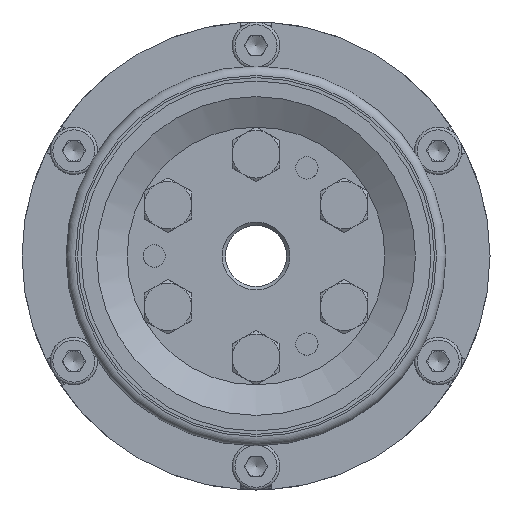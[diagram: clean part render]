
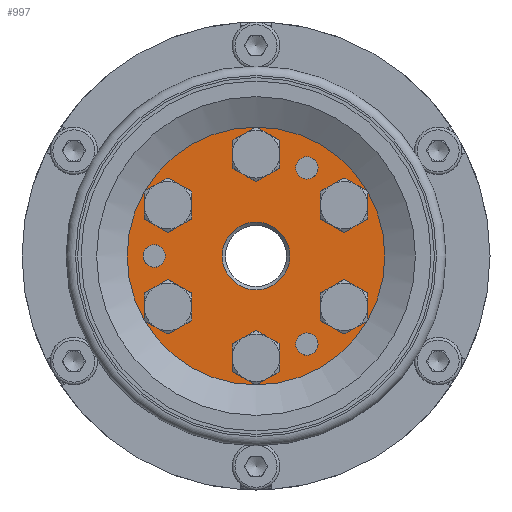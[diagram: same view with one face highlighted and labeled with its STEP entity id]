
A CAD part, left-side view. The second image highlights one B-rep face of the part: STEP entity #997.
In plain terms, the highlighted planar face has unit normal (-1, 0, 0).
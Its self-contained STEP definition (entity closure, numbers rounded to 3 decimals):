
#997 = ADVANCED_FACE( '', ( #2533, #2534, #2535, #2536, #2537, #2538, #2539, #2540, #2541, #2542, #2543 ), #2544, .T. );
#2533 = FACE_BOUND( '', #4984, .T. );
#2534 = FACE_OUTER_BOUND( '', #4985, .T. );
#2535 = FACE_BOUND( '', #4986, .T. );
#2536 = FACE_BOUND( '', #4987, .T. );
#2537 = FACE_BOUND( '', #4988, .T. );
#2538 = FACE_BOUND( '', #4989, .T. );
#2539 = FACE_BOUND( '', #4990, .T. );
#2540 = FACE_BOUND( '', #4991, .T. );
#2541 = FACE_BOUND( '', #4992, .T. );
#2542 = FACE_BOUND( '', #4993, .T. );
#2543 = FACE_BOUND( '', #4994, .T. );
#2544 = PLANE( '', #4995 );
#4984 = EDGE_LOOP( '', ( #8398 ) );
#4985 = EDGE_LOOP( '', ( #8399 ) );
#4986 = EDGE_LOOP( '', ( #8400 ) );
#4987 = EDGE_LOOP( '', ( #8401 ) );
#4988 = EDGE_LOOP( '', ( #8402 ) );
#4989 = EDGE_LOOP( '', ( #8403 ) );
#4990 = EDGE_LOOP( '', ( #8404 ) );
#4991 = EDGE_LOOP( '', ( #8405 ) );
#4992 = EDGE_LOOP( '', ( #8406 ) );
#4993 = EDGE_LOOP( '', ( #8407 ) );
#4994 = EDGE_LOOP( '', ( #8408 ) );
#4995 = AXIS2_PLACEMENT_3D( '', #8409, #8410, #8411 );
#8398 = ORIENTED_EDGE( '', *, *, #12386, .T. );
#8399 = ORIENTED_EDGE( '', *, *, #12568, .T. );
#8400 = ORIENTED_EDGE( '', *, *, #13073, .F. );
#8401 = ORIENTED_EDGE( '', *, *, #13074, .F. );
#8402 = ORIENTED_EDGE( '', *, *, #12936, .F. );
#8403 = ORIENTED_EDGE( '', *, *, #13075, .T. );
#8404 = ORIENTED_EDGE( '', *, *, #13076, .T. );
#8405 = ORIENTED_EDGE( '', *, *, #13077, .T. );
#8406 = ORIENTED_EDGE( '', *, *, #12497, .T. );
#8407 = ORIENTED_EDGE( '', *, *, #13078, .T. );
#8408 = ORIENTED_EDGE( '', *, *, #13079, .T. );
#8409 = CARTESIAN_POINT( '', ( -42.5, -2., 3.464 ) );
#8410 = DIRECTION( '', ( -1., 0., 0. ) );
#8411 = DIRECTION( '', ( 0., 1., 0. ) );
#12386 = EDGE_CURVE( '', #14419, #14419, #14420, .F. );
#12497 = EDGE_CURVE( '', #14615, #14615, #14616, .T. );
#12568 = EDGE_CURVE( '', #14734, #14734, #14735, .T. );
#12936 = EDGE_CURVE( '', #15351, #15351, #15352, .T. );
#13073 = EDGE_CURVE( '', #15563, #15563, #15564, .T. );
#13074 = EDGE_CURVE( '', #15565, #15565, #15566, .T. );
#13075 = EDGE_CURVE( '', #15567, #15567, #15568, .T. );
#13076 = EDGE_CURVE( '', #15569, #15569, #15570, .T. );
#13077 = EDGE_CURVE( '', #15571, #15571, #15572, .T. );
#13078 = EDGE_CURVE( '', #15573, #15573, #15574, .T. );
#13079 = EDGE_CURVE( '', #15575, #15575, #15576, .T. );
#14419 = VERTEX_POINT( '', #17374 );
#14420 = CIRCLE( '', #17375, 5. );
#14615 = VERTEX_POINT( '', #17784 );
#14616 = CIRCLE( '', #17785, 2.95 );
#14734 = VERTEX_POINT( '', #18047 );
#14735 = CIRCLE( '', #18048, 19. );
#15351 = VERTEX_POINT( '', #19098 );
#15352 = CIRCLE( '', #19099, 1.65 );
#15563 = VERTEX_POINT( '', #19411 );
#15564 = CIRCLE( '', #19412, 1.65 );
#15565 = VERTEX_POINT( '', #19413 );
#15566 = CIRCLE( '', #19414, 1.65 );
#15567 = VERTEX_POINT( '', #19415 );
#15568 = CIRCLE( '', #19416, 2.95 );
#15569 = VERTEX_POINT( '', #19417 );
#15570 = CIRCLE( '', #19418, 2.95 );
#15571 = VERTEX_POINT( '', #19419 );
#15572 = CIRCLE( '', #19420, 2.95 );
#15573 = VERTEX_POINT( '', #19421 );
#15574 = CIRCLE( '', #19422, 2.95 );
#15575 = VERTEX_POINT( '', #19423 );
#15576 = CIRCLE( '', #19424, 2.95 );
#17374 = CARTESIAN_POINT( '', ( -42.5, 0., 5. ) );
#17375 = AXIS2_PLACEMENT_3D( '', #22798, #22799, #22800 );
#17784 = CARTESIAN_POINT( '', ( -42.5, -14.465, -4.945 ) );
#17785 = AXIS2_PLACEMENT_3D( '', #22938, #22939, #22940 );
#18047 = CARTESIAN_POINT( '', ( -42.5, -9.5, 16.454 ) );
#18048 = AXIS2_PLACEMENT_3D( '', #23024, #23025, #23026 );
#19098 = CARTESIAN_POINT( '', ( -42.5, -8.325, -11.561 ) );
#19099 = AXIS2_PLACEMENT_3D( '', #23543, #23544, #23545 );
#19411 = CARTESIAN_POINT( '', ( -42.5, 14.175, 1.429 ) );
#19412 = AXIS2_PLACEMENT_3D( '', #23712, #23713, #23714 );
#19413 = CARTESIAN_POINT( '', ( -42.5, -8.325, 14.419 ) );
#19414 = AXIS2_PLACEMENT_3D( '', #23715, #23716, #23717 );
#19415 = CARTESIAN_POINT( '', ( -42.5, -1.475, 17.555 ) );
#19416 = AXIS2_PLACEMENT_3D( '', #23718, #23719, #23720 );
#19417 = CARTESIAN_POINT( '', ( -42.5, 11.515, 10.055 ) );
#19418 = AXIS2_PLACEMENT_3D( '', #23721, #23722, #23723 );
#19419 = CARTESIAN_POINT( '', ( -42.5, -14.465, 10.055 ) );
#19420 = AXIS2_PLACEMENT_3D( '', #23724, #23725, #23726 );
#19421 = CARTESIAN_POINT( '', ( -42.5, -1.475, -12.445 ) );
#19422 = AXIS2_PLACEMENT_3D( '', #23727, #23728, #23729 );
#19423 = CARTESIAN_POINT( '', ( -42.5, 11.515, -4.945 ) );
#19424 = AXIS2_PLACEMENT_3D( '', #23730, #23731, #23732 );
#22798 = CARTESIAN_POINT( '', ( -42.5, 0., 0. ) );
#22799 = DIRECTION( '', ( -1., 0., 0. ) );
#22800 = DIRECTION( '', ( 0., 0., 1. ) );
#22938 = CARTESIAN_POINT( '', ( -42.5, -12.99, -7.5 ) );
#22939 = DIRECTION( '', ( 1., 0., 0. ) );
#22940 = DIRECTION( '', ( 0., -0.5, 0.866 ) );
#23024 = CARTESIAN_POINT( '', ( -42.5, 0., 0. ) );
#23025 = DIRECTION( '', ( -1., 0., 0. ) );
#23026 = DIRECTION( '', ( 0., -0.5, 0.866 ) );
#23543 = CARTESIAN_POINT( '', ( -42.5, -7.5, -12.99 ) );
#23544 = DIRECTION( '', ( -1., 0., 0. ) );
#23545 = DIRECTION( '', ( 0., -0.5, 0.866 ) );
#23712 = CARTESIAN_POINT( '', ( -42.5, 15., 0. ) );
#23713 = DIRECTION( '', ( -1., 0., 0. ) );
#23714 = DIRECTION( '', ( 0., -0.5, 0.866 ) );
#23715 = CARTESIAN_POINT( '', ( -42.5, -7.5, 12.99 ) );
#23716 = DIRECTION( '', ( -1., 0., 0. ) );
#23717 = DIRECTION( '', ( 0., -0.5, 0.866 ) );
#23718 = CARTESIAN_POINT( '', ( -42.5, 0., 15. ) );
#23719 = DIRECTION( '', ( 1., 0., 0. ) );
#23720 = DIRECTION( '', ( 0., -0.5, 0.866 ) );
#23721 = CARTESIAN_POINT( '', ( -42.5, 12.99, 7.5 ) );
#23722 = DIRECTION( '', ( 1., 0., 0. ) );
#23723 = DIRECTION( '', ( 0., -0.5, 0.866 ) );
#23724 = CARTESIAN_POINT( '', ( -42.5, -12.99, 7.5 ) );
#23725 = DIRECTION( '', ( 1., 0., 0. ) );
#23726 = DIRECTION( '', ( 0., -0.5, 0.866 ) );
#23727 = CARTESIAN_POINT( '', ( -42.5, 0., -15. ) );
#23728 = DIRECTION( '', ( 1., 0., 0. ) );
#23729 = DIRECTION( '', ( 0., -0.5, 0.866 ) );
#23730 = CARTESIAN_POINT( '', ( -42.5, 12.99, -7.5 ) );
#23731 = DIRECTION( '', ( 1., 0., 0. ) );
#23732 = DIRECTION( '', ( 0., -0.5, 0.866 ) );
